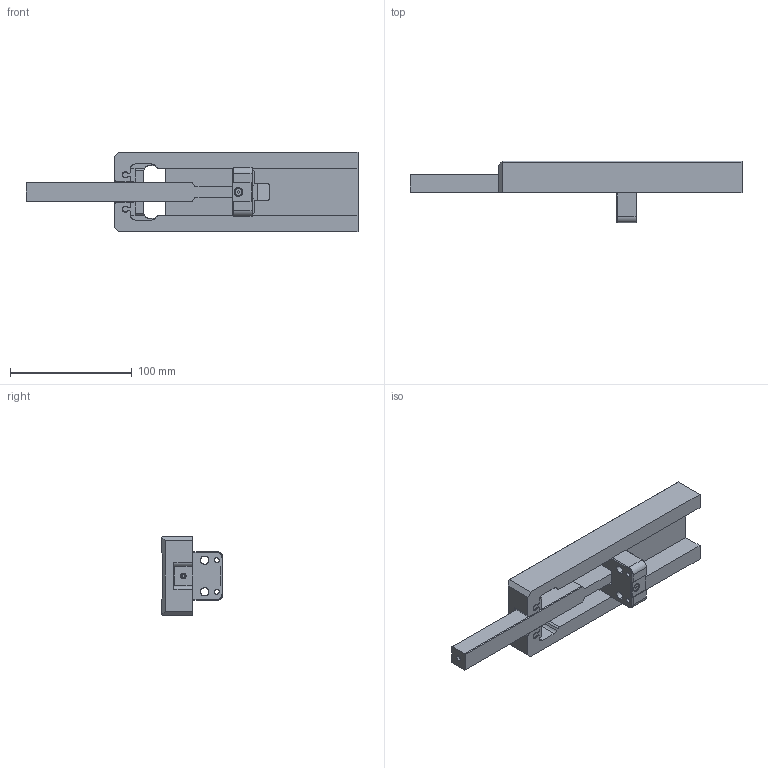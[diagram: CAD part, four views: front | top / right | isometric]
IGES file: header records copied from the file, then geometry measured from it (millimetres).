
Start section: SolidWorks IGES file using analytic representation for surfaces
Global section: file name: G:\CAD\Hakdrag\SA\SA-80(SA65)\SA-80-200-32.igs; native system: SolidWorks 2015; preprocessor: SolidWorks 2015; author: ChBe; date: 150616.070853; units: millimetre
Bounding box: 272.66 x 50.7 x 65 mm (x, y, z)
Surface area: 63505.3 mm2 (no closed solid volume)
Topology: 0 solids, 0 shells, 154 faces, 1764 edges, 1764 vertices
Faces by surface type: bspline 97, revolution 57
